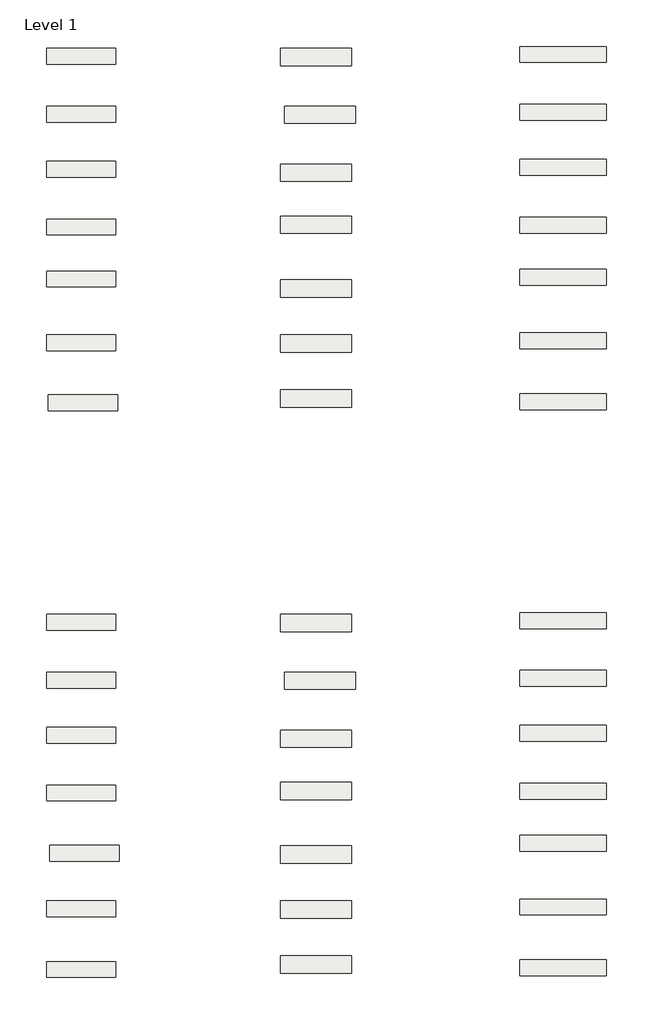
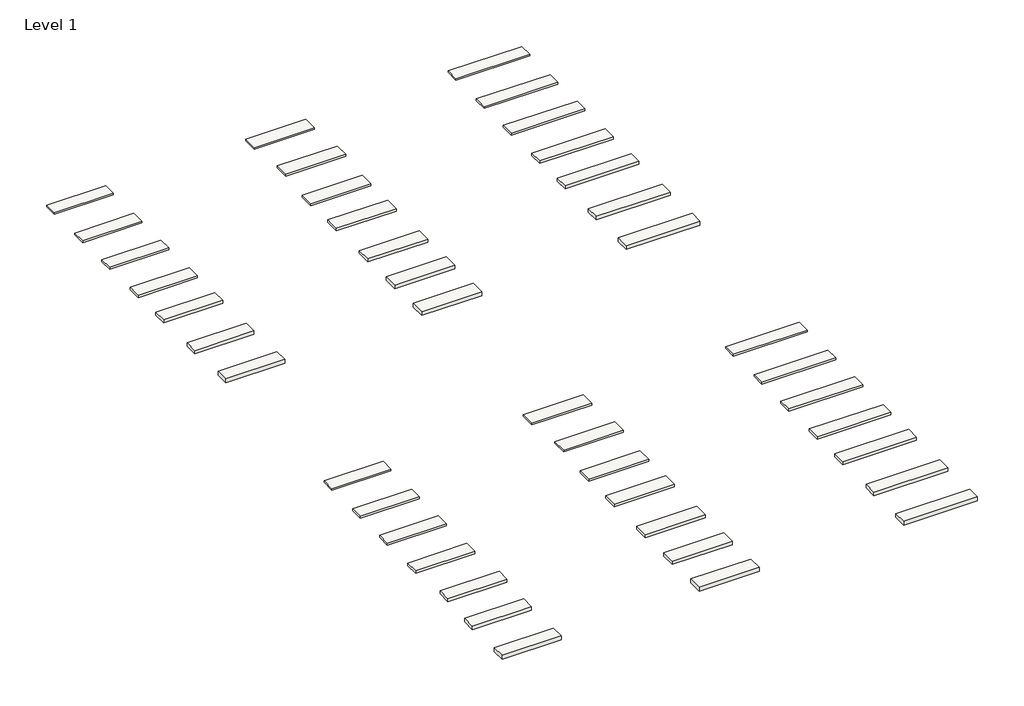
# One storey: 42 roofs.
"""IFC4 building model written with IfcOpenShell, lengths in millimetres."""

from ifc_helpers import new_model, si_unit, origin, origin_with_axes, place, context, project, spatial, polyline, outline, extrude, element, save

model = new_model("IFC4")

# Units and contexts
model_context = context("Model", 3, world=origin())
ifc_project = project(units=[si_unit("LENGTHUNIT", "METRE", prefix="MILLI")], contexts=[model_context])

# Site, building, storey
site = spatial("IfcSite", under=ifc_project)
building = spatial("IfcBuilding", under=site)
storey = spatial("IfcBuildingStorey", under=building, Name="Level 1", Elevation=0.0)

# Roofs
placement = place(None, origin())
element("IfcRoof", 1, ObjectType="Panel Thermochip THH 10-40-16 (2400x550)", at=placement, inside=storey, context=model_context, shape_type="SweptSolid", body=[
    extrude(outline(polyline([(-17878.9678788, 6399.8223879), (-15478.9678788, 6399.8223879), (-15478.9678788, 5849.8223879), (-17878.9678788, 5849.8223879), (-17878.9678788, 6399.8223879)])), origin_with_axes(), (0.0, 0.0, 1.0), 66.0),
])
element("IfcRoof", 2, ObjectType="Panel Thermochip THH 10-50-16 (2400x550)", at=placement, inside=storey, context=model_context, shape_type="SweptSolid", body=[
    extrude(outline(polyline([(-17878.9678788, 4399.8223879), (-15478.9678788, 4399.8223879), (-15478.9678788, 3849.8223879), (-17878.9678788, 3849.8223879), (-17878.9678788, 4399.8223879)])), origin_with_axes(), (0.0, 0.0, 1.0), 76.0),
])
element("IfcRoof", 3, ObjectType="Panel Thermochip THH 10-60-16 (2400x550)", at=placement, inside=storey, context=model_context, shape_type="SweptSolid", body=[
    extrude(outline(polyline([(-17878.9678788, 2499.8223879), (-15478.9678788, 2499.8223879), (-15478.9678788, 1949.8223879), (-17878.9678788, 1949.8223879), (-17878.9678788, 2499.8223879)])), origin_with_axes(), (0.0, 0.0, 1.0), 86.0),
])
element("IfcRoof", 4, ObjectType="Panel Thermochip THH 10-80-16 (2400x550)", at=placement, inside=storey, context=model_context, shape_type="SweptSolid", body=[
    extrude(outline(polyline([(-17878.9678788, 499.8223879), (-15478.9678788, 499.8223879), (-15478.9678788, -50.1776121), (-17878.9678788, -50.1776121), (-17878.9678788, 499.8223879)])), origin_with_axes(), (0.0, 0.0, 1.0), 106.0),
])
element("IfcRoof", 5, ObjectType="Panel Thermochip THH 10-100-16 (2400x550)", at=placement, inside=storey, context=model_context, shape_type="SweptSolid", body=[
    extrude(outline(polyline([(-17878.9678788, -1300.1776121), (-15478.9678788, -1300.1776121), (-15478.9678788, -1850.1776121), (-17878.9678788, -1850.1776121), (-17878.9678788, -1300.1776121)])), origin_with_axes(), (0.0, 0.0, 1.0), 126.0),
])
element("IfcRoof", 6, ObjectType="Panel Thermochip THH 10-120-16 (2400x550)", at=placement, inside=storey, context=model_context, shape_type="SweptSolid", body=[
    extrude(outline(polyline([(-17878.9678788, -3500.1776121), (-15478.9678788, -3500.1776121), (-15478.9678788, -4050.1776121), (-17878.9678788, -4050.1776121), (-17878.9678788, -3500.1776121)])), origin_with_axes(), (0.0, 0.0, 1.0), 146.0),
])
element("IfcRoof", 7, ObjectType="Panel Thermochip THH 10-140-16 (2400x550)", at=placement, inside=storey, context=model_context, shape_type="SweptSolid", body=[
    extrude(outline(polyline([(-17820.3390717, -5581.0046098), (-15420.3390717, -5581.0046098), (-15420.3390717, -6131.0046098), (-17820.3390717, -6131.0046098), (-17820.3390717, -5581.0046098)])), origin_with_axes(), (0.0, 0.0, 1.0), 166.0),
])
element("IfcRoof", 8, ObjectType="Panel Thermochip THH 10-40-16 (2440x600)", at=placement, inside=storey, context=model_context, shape_type="SweptSolid", body=[
    extrude(outline(polyline([(-9778.9678788, 6399.8223879), (-7338.9678788, 6399.8223879), (-7338.9678788, 5799.8223879), (-9778.9678788, 5799.8223879), (-9778.9678788, 6399.8223879)])), origin_with_axes(), (0.0, 0.0, 1.0), 66.0),
])
element("IfcRoof", 9, ObjectType="Panel Thermochip THH 10-50-16 (2440x600)", at=placement, inside=storey, context=model_context, shape_type="SweptSolid", body=[
    extrude(outline(polyline([(-9639.4549313, 4404.6942874), (-7199.4549313, 4404.6942874), (-7199.4549313, 3804.6942874), (-9639.4549313, 3804.6942874), (-9639.4549313, 4404.6942874)])), origin_with_axes(), (0.0, 0.0, 1.0), 76.0),
])
element("IfcRoof", 10, ObjectType="Panel Thermochip THH 10-60-16 (2440x600)", at=placement, inside=storey, context=model_context, shape_type="SweptSolid", body=[
    extrude(outline(polyline([(-9778.9678788, 2399.8223879), (-7338.9678788, 2399.8223879), (-7338.9678788, 1799.8223879), (-9778.9678788, 1799.8223879), (-9778.9678788, 2399.8223879)])), origin_with_axes(), (0.0, 0.0, 1.0), 86.0),
])
element("IfcRoof", 11, ObjectType="Panel Thermochip THH 10-80-16 (2440x600)", at=placement, inside=storey, context=model_context, shape_type="SweptSolid", body=[
    extrude(outline(polyline([(-9778.9678788, 599.8223879), (-7338.9678788, 599.8223879), (-7338.9678788, -0.1776121), (-9778.9678788, -0.1776121), (-9778.9678788, 599.8223879)])), origin_with_axes(), (0.0, 0.0, 1.0), 106.0),
])
element("IfcRoof", 12, ObjectType="Panel Thermochip THH 10-100-16 (2440x600)", at=placement, inside=storey, context=model_context, shape_type="SweptSolid", body=[
    extrude(outline(polyline([(-9778.9678788, -1600.1776121), (-7338.9678788, -1600.1776121), (-7338.9678788, -2200.1776121), (-9778.9678788, -2200.1776121), (-9778.9678788, -1600.1776121)])), origin_with_axes(), (0.0, 0.0, 1.0), 126.0),
])
element("IfcRoof", 13, ObjectType="Panel Thermochip THH 10-120-16 (2440x600)", at=placement, inside=storey, context=model_context, shape_type="SweptSolid", body=[
    extrude(outline(polyline([(-9778.9678788, -3500.1776121), (-7338.9678788, -3500.1776121), (-7338.9678788, -4100.1776121), (-9778.9678788, -4100.1776121), (-9778.9678788, -3500.1776121)])), origin_with_axes(), (0.0, 0.0, 1.0), 146.0),
])
element("IfcRoof", 14, ObjectType="Panel Thermochip THH 10-140-16 (2440x550)", at=placement, inside=storey, context=model_context, shape_type="SweptSolid", body=[
    extrude(outline(polyline([(-9778.9678788, -5400.1776121), (-7338.9678788, -5400.1776121), (-7338.9678788, -6000.1776121), (-9778.9678788, -6000.1776121), (-9778.9678788, -5400.1776121)])), origin_with_axes(), (0.0, 0.0, 1.0), 166.0),
])
element("IfcRoof", 15, ObjectType="Panel Thermochip THH 10-40-16 (3000x550)", at=placement, inside=storey, context=model_context, shape_type="SweptSolid", body=[
    extrude(outline(polyline([(-1510.4474716, 6460.3549134), (1489.5525284, 6460.3549134), (1489.5525284, 5910.3549134), (-1510.4474716, 5910.3549134), (-1510.4474716, 6460.3549134)])), origin_with_axes(), (0.0, 0.0, 1.0), 66.0),
])
element("IfcRoof", 16, ObjectType="Panel Thermochip THH 10-50-16 (3000x550)", at=placement, inside=storey, context=model_context, shape_type="SweptSolid", body=[
    extrude(outline(polyline([(-1510.4474716, 4460.3549134), (1489.5525284, 4460.3549134), (1489.5525284, 3910.3549134), (-1510.4474716, 3910.3549134), (-1510.4474716, 4460.3549134)])), origin_with_axes(), (0.0, 0.0, 1.0), 76.0),
])
element("IfcRoof", 17, ObjectType="Panel Thermochip THH 10-60-16 (3000x550)", at=placement, inside=storey, context=model_context, shape_type="SweptSolid", body=[
    extrude(outline(polyline([(-1510.4474716, 2560.3549134), (1489.5525284, 2560.3549134), (1489.5525284, 2010.3549134), (-1510.4474716, 2010.3549134), (-1510.4474716, 2560.3549134)])), origin_with_axes(), (0.0, 0.0, 1.0), 86.0),
])
element("IfcRoof", 18, ObjectType="Panel Thermochip THH 10-80-16 (3000x550)", at=placement, inside=storey, context=model_context, shape_type="SweptSolid", body=[
    extrude(outline(polyline([(-1510.4474716, 560.3549134), (1489.5525284, 560.3549134), (1489.5525284, 10.3549134), (-1510.4474716, 10.3549134), (-1510.4474716, 560.3549134)])), origin_with_axes(), (0.0, 0.0, 1.0), 106.0),
])
element("IfcRoof", 19, ObjectType="Panel Thermochip THH 10-100-16 (3000x550)", at=placement, inside=storey, context=model_context, shape_type="SweptSolid", body=[
    extrude(outline(polyline([(-1510.4474716, -1239.6450866), (1489.5525284, -1239.6450866), (1489.5525284, -1789.6450866), (-1510.4474716, -1789.6450866), (-1510.4474716, -1239.6450866)])), origin_with_axes(), (0.0, 0.0, 1.0), 126.0),
])
element("IfcRoof", 20, ObjectType="Panel Thermochip THH 10-120-16 (3000x600)", at=placement, inside=storey, context=model_context, shape_type="SweptSolid", body=[
    extrude(outline(polyline([(-1510.4474716, -3439.6450866), (1489.5525284, -3439.6450866), (1489.5525284, -3989.6450866), (-1510.4474716, -3989.6450866), (-1510.4474716, -3439.6450866)])), origin_with_axes(), (0.0, 0.0, 1.0), 146.0),
])
element("IfcRoof", 21, ObjectType="Panel Thermochip THH 10-140-16 (3000x550)", at=placement, inside=storey, context=model_context, shape_type="SweptSolid", body=[
    extrude(outline(polyline([(-1510.4474716, -5539.6450866), (1489.5525284, -5539.6450866), (1489.5525284, -6089.6450866), (-1510.4474716, -6089.6450866), (-1510.4474716, -5539.6450866)])), origin_with_axes(), (0.0, 0.0, 1.0), 166.0),
])
element("IfcRoof", 22, ObjectType="Panel Thermochip THH 10-40-19 (2400x550)", at=placement, inside=storey, context=model_context, shape_type="SweptSolid", body=[
    extrude(outline(polyline([(-17878.9678788, -13163.6783749), (-15478.9678788, -13163.6783749), (-15478.9678788, -13713.6783749), (-17878.9678788, -13713.6783749), (-17878.9678788, -13163.6783749)])), origin_with_axes(), (0.0, 0.0, 1.0), 69.0),
])
element("IfcRoof", 23, ObjectType="Panel Thermochip THH 10-50-19 (2400x550)", at=placement, inside=storey, context=model_context, shape_type="SweptSolid", body=[
    extrude(outline(polyline([(-17878.9678788, -15163.6783749), (-15478.9678788, -15163.6783749), (-15478.9678788, -15713.6783749), (-17878.9678788, -15713.6783749), (-17878.9678788, -15163.6783749)])), origin_with_axes(), (0.0, 0.0, 1.0), 79.0),
])
element("IfcRoof", 24, ObjectType="Panel Thermochip THH 10-60-19 (2400x550)", at=placement, inside=storey, context=model_context, shape_type="SweptSolid", body=[
    extrude(outline(polyline([(-17878.9678788, -17063.6783749), (-15478.9678788, -17063.6783749), (-15478.9678788, -17613.6783749), (-17878.9678788, -17613.6783749), (-17878.9678788, -17063.6783749)])), origin_with_axes(), (0.0, 0.0, 1.0), 89.0),
])
element("IfcRoof", 25, ObjectType="Panel Thermochip THH 10-80-19 (2400x550)", at=placement, inside=storey, context=model_context, shape_type="SweptSolid", body=[
    extrude(outline(polyline([(-17878.9678788, -19063.6783749), (-15478.9678788, -19063.6783749), (-15478.9678788, -19613.6783749), (-17878.9678788, -19613.6783749), (-17878.9678788, -19063.6783749)])), origin_with_axes(), (0.0, 0.0, 1.0), 109.0),
])
element("IfcRoof", 26, ObjectType="Panel Thermochip THH 10-100-19 (2400x550)", at=placement, inside=storey, context=model_context, shape_type="SweptSolid", body=[
    extrude(outline(polyline([(-17767.0946401, -21143.3614717), (-15367.0946401, -21143.3614717), (-15367.0946401, -21693.3614717), (-17767.0946401, -21693.3614717), (-17767.0946401, -21143.3614717)])), origin_with_axes(), (0.0, 0.0, 1.0), 129.0),
])
element("IfcRoof", 27, ObjectType="Panel Thermochip THH 10-120-19 (2400x550)", at=placement, inside=storey, context=model_context, shape_type="SweptSolid", body=[
    extrude(outline(polyline([(-17878.9678788, -23063.6783749), (-15478.9678788, -23063.6783749), (-15478.9678788, -23613.6783749), (-17878.9678788, -23613.6783749), (-17878.9678788, -23063.6783749)])), origin_with_axes(), (0.0, 0.0, 1.0), 149.0),
])
element("IfcRoof", 28, ObjectType="Panel Thermochip THH 10-140-19 (2400x550)", at=placement, inside=storey, context=model_context, shape_type="SweptSolid", body=[
    extrude(outline(polyline([(-17878.9678788, -25163.6783749), (-15478.9678788, -25163.6783749), (-15478.9678788, -25713.6783749), (-17878.9678788, -25713.6783749), (-17878.9678788, -25163.6783749)])), origin_with_axes(), (0.0, 0.0, 1.0), 169.0),
])
element("IfcRoof", 29, ObjectType="Panel Thermochip THH 10-40-19 (2440x600)", at=placement, inside=storey, context=model_context, shape_type="SweptSolid", body=[
    extrude(outline(polyline([(-9778.9678788, -13163.6783749), (-7338.9678788, -13163.6783749), (-7338.9678788, -13763.6783749), (-9778.9678788, -13763.6783749), (-9778.9678788, -13163.6783749)])), origin_with_axes(), (0.0, 0.0, 1.0), 69.0),
])
element("IfcRoof", 30, ObjectType="Panel Thermochip THH 10-50-19 (2440x600)", at=placement, inside=storey, context=model_context, shape_type="SweptSolid", body=[
    extrude(outline(polyline([(-9639.4549313, -15158.8064755), (-7199.4549313, -15158.8064755), (-7199.4549313, -15758.8064755), (-9639.4549313, -15758.8064755), (-9639.4549313, -15158.8064755)])), origin_with_axes(), (0.0, 0.0, 1.0), 79.0),
])
element("IfcRoof", 31, ObjectType="Panel Thermochip THH 10-60-19 (2440x600)", at=placement, inside=storey, context=model_context, shape_type="SweptSolid", body=[
    extrude(outline(polyline([(-9778.9678788, -17163.6783749), (-7338.9678788, -17163.6783749), (-7338.9678788, -17763.6783749), (-9778.9678788, -17763.6783749), (-9778.9678788, -17163.6783749)])), origin_with_axes(), (0.0, 0.0, 1.0), 89.0),
])
element("IfcRoof", 32, ObjectType="Panel Thermochip THH 10-80-19 (2440x600)", at=placement, inside=storey, context=model_context, shape_type="SweptSolid", body=[
    extrude(outline(polyline([(-9778.9678788, -18963.6783749), (-7338.9678788, -18963.6783749), (-7338.9678788, -19563.6783749), (-9778.9678788, -19563.6783749), (-9778.9678788, -18963.6783749)])), origin_with_axes(), (0.0, 0.0, 1.0), 109.0),
])
element("IfcRoof", 33, ObjectType="Panel Thermochip THH 10-100-19 (2440x600)", at=placement, inside=storey, context=model_context, shape_type="SweptSolid", body=[
    extrude(outline(polyline([(-9778.9678788, -21163.6783749), (-7338.9678788, -21163.6783749), (-7338.9678788, -21763.6783749), (-9778.9678788, -21763.6783749), (-9778.9678788, -21163.6783749)])), origin_with_axes(), (0.0, 0.0, 1.0), 129.0),
])
element("IfcRoof", 34, ObjectType="Panel Thermochip THH 10-120-19 (2440x600)", at=placement, inside=storey, context=model_context, shape_type="SweptSolid", body=[
    extrude(outline(polyline([(-9778.9678788, -23063.6783749), (-7338.9678788, -23063.6783749), (-7338.9678788, -23663.6783749), (-9778.9678788, -23663.6783749), (-9778.9678788, -23063.6783749)])), origin_with_axes(), (0.0, 0.0, 1.0), 149.0),
])
element("IfcRoof", 35, ObjectType="Panel Thermochip THH 10-140-19 (2440x550)", at=placement, inside=storey, context=model_context, shape_type="SweptSolid", body=[
    extrude(outline(polyline([(-9778.9678788, -24963.6783749), (-7338.9678788, -24963.6783749), (-7338.9678788, -25563.6783749), (-9778.9678788, -25563.6783749), (-9778.9678788, -24963.6783749)])), origin_with_axes(), (0.0, 0.0, 1.0), 169.0),
])
element("IfcRoof", 36, ObjectType="Panel Thermochip THH 10-40-19 (3000x550)", at=placement, inside=storey, context=model_context, shape_type="SweptSolid", body=[
    extrude(outline(polyline([(-1510.4474716, -13103.1458495), (1489.5525284, -13103.1458495), (1489.5525284, -13653.1458495), (-1510.4474716, -13653.1458495), (-1510.4474716, -13103.1458495)])), origin_with_axes(), (0.0, 0.0, 1.0), 69.0),
])
element("IfcRoof", 37, ObjectType="Panel Thermochip THH 10-50-19 (3000x550)", at=placement, inside=storey, context=model_context, shape_type="SweptSolid", body=[
    extrude(outline(polyline([(-1510.4474716, -15103.1458495), (1489.5525284, -15103.1458495), (1489.5525284, -15653.1458495), (-1510.4474716, -15653.1458495), (-1510.4474716, -15103.1458495)])), origin_with_axes(), (0.0, 0.0, 1.0), 79.0),
])
element("IfcRoof", 38, ObjectType="Panel Thermochip THH 10-60-19 (3000x550)", at=placement, inside=storey, context=model_context, shape_type="SweptSolid", body=[
    extrude(outline(polyline([(-1510.4474716, -17003.1458495), (1489.5525284, -17003.1458495), (1489.5525284, -17553.1458495), (-1510.4474716, -17553.1458495), (-1510.4474716, -17003.1458495)])), origin_with_axes(), (0.0, 0.0, 1.0), 89.0),
])
element("IfcRoof", 39, ObjectType="Panel Thermochip THH 10-80-19 (3000x550)", at=placement, inside=storey, context=model_context, shape_type="SweptSolid", body=[
    extrude(outline(polyline([(-1510.4474716, -19003.1458495), (1489.5525284, -19003.1458495), (1489.5525284, -19553.1458495), (-1510.4474716, -19553.1458495), (-1510.4474716, -19003.1458495)])), origin_with_axes(), (0.0, 0.0, 1.0), 109.0),
])
element("IfcRoof", 40, ObjectType="Panel Thermochip THH 10-100-19 (3000x550)", at=placement, inside=storey, context=model_context, shape_type="SweptSolid", body=[
    extrude(outline(polyline([(-1510.4474716, -20803.1458495), (1489.5525284, -20803.1458495), (1489.5525284, -21353.1458495), (-1510.4474716, -21353.1458495), (-1510.4474716, -20803.1458495)])), origin_with_axes(), (0.0, 0.0, 1.0), 129.0),
])
element("IfcRoof", 41, ObjectType="Panel Thermochip THH 10-120-19 (3000x600)", at=placement, inside=storey, context=model_context, shape_type="SweptSolid", body=[
    extrude(outline(polyline([(-1510.4474716, -23003.1458495), (1489.5525284, -23003.1458495), (1489.5525284, -23553.1458495), (-1510.4474716, -23553.1458495), (-1510.4474716, -23003.1458495)])), origin_with_axes(), (0.0, 0.0, 1.0), 149.0),
])
element("IfcRoof", 42, ObjectType="Panel Thermochip THH 10-140-19 (3000x550)", at=placement, inside=storey, context=model_context, shape_type="SweptSolid", body=[
    extrude(outline(polyline([(-1510.4474716, -25103.1458495), (1489.5525284, -25103.1458495), (1489.5525284, -25653.1458495), (-1510.4474716, -25653.1458495), (-1510.4474716, -25103.1458495)])), origin_with_axes(), (0.0, 0.0, 1.0), 169.0),
])

save(model, "model.ifc")
